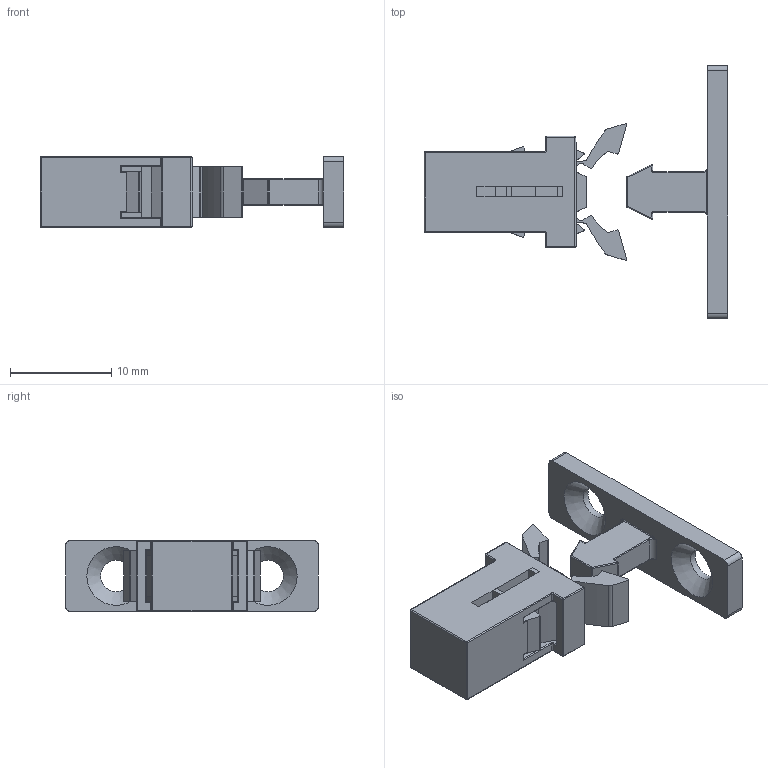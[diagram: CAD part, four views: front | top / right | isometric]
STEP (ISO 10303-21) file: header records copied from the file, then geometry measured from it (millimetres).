
FILE_DESCRIPTION(/* description */ (''),/* implementation_level */ '2;1');
FILE_NAME(/* name */ '\\SYNOLOGYNAS\web\db2\B-OT8\KB\DR_B-OT8.stp',/* time_stamp */ '2022-12-02T12:32:31+09:00',/* author */ ('user'),/* organization */ (''),/* preprocessor_version */ 'ST-DEVELOPER v15.6',/* originating_system */ 'Autodesk Inventor 2015',/* authorisation */ '');
FILE_SCHEMA (('AUTOMOTIVE_DESIGN { 1 0 10303 214 3 1 1 }'));
Length unit declared in the file: millimetre
Products named in the file (5): DR_B-OT8; DR_B-OT8-BR; DR_B-OT8-C1; DR_B-OT8-C2
Bounding box: 30 x 25 x 7 mm (x, y, z)
Volume: 1450.5 mm3; surface area: 2327.2 mm2
Topology: 4 solids, 4 shells, 252 faces, 628 edges, 380 vertices
Faces by surface type: cylinder 110, plane 96, sphere 20, torus 16, bspline 8, cone 2
Full cylindrical faces by diameter (mm): 3.1 x2
Entity records: 7739 total; most frequent: CARTESIAN_POINT 1537, DIRECTION 1342, ORIENTED_EDGE 1236, EDGE_CURVE 618, AXIS2_PLACEMENT_3D 487, VERTEX_POINT 378, LINE 368, VECTOR 368
